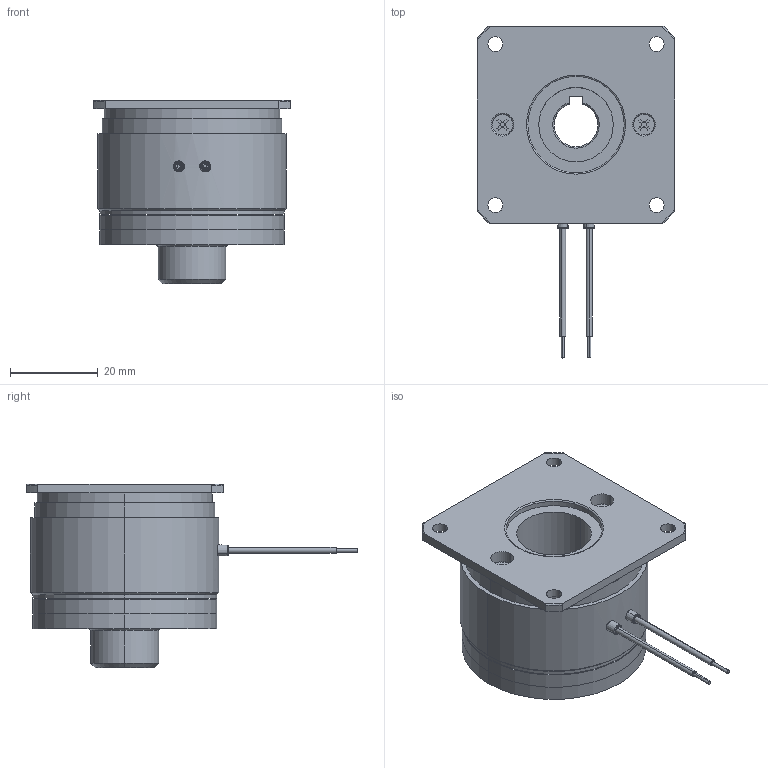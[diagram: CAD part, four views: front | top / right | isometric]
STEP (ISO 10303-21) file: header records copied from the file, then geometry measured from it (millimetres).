
FILE_DESCRIPTION (( 'STEP AP214' ), '1' );
FILE_NAME ('04P1230.STEP', '2026-04-23T06:18:54', ( '' ), ( '' ), 'SwSTEP 2.0', 'SolidWorks 2025', '' );
FILE_SCHEMA (( 'AUTOMOTIVE_DESIGN' ));
Length unit declared in the file: millimetre
Products named in the file (10): 10088628swp000; 10088625swp000; 10088633swa000; 04P1230; 10088626swp000_genietet (2,35mm Klemmlänge); 10088626swp000_Einbaulänge 2,15mm; 10088623swp000; 10088627swa000; 10088632swp000; 10088629swp000
Assembly tree (18 placements, depth 4):
  04P1230
    10088623swp000
    10088633swa000
      10088632swp000
      10088627swa000
        10088628swp000
        10088625swp000
        10088626swp000_genietet (2,35mm Klemmlänge)  x3
        10088629swp000  x3
      10088626swp000_Einbaulänge 2,15mm  x3
      10088629swp000  x3
Bounding box: 45 x 75.7 x 41.87 mm (x, y, z)
Volume: 40076.3 mm3; surface area: 18981.7 mm2
Topology: 18 solids, 18 shells, 388 faces, 888 edges, 546 vertices
Faces by surface type: cylinder 165, cone 94, plane 75, torus 42, sphere 12
Entity records: 8575 total; most frequent: DIRECTION 1562, CARTESIAN_POINT 1551, ORIENTED_EDGE 1280, AXIS2_PLACEMENT_3D 645, EDGE_CURVE 640, VERTEX_POINT 402, CIRCLE 348, EDGE_LOOP 346
